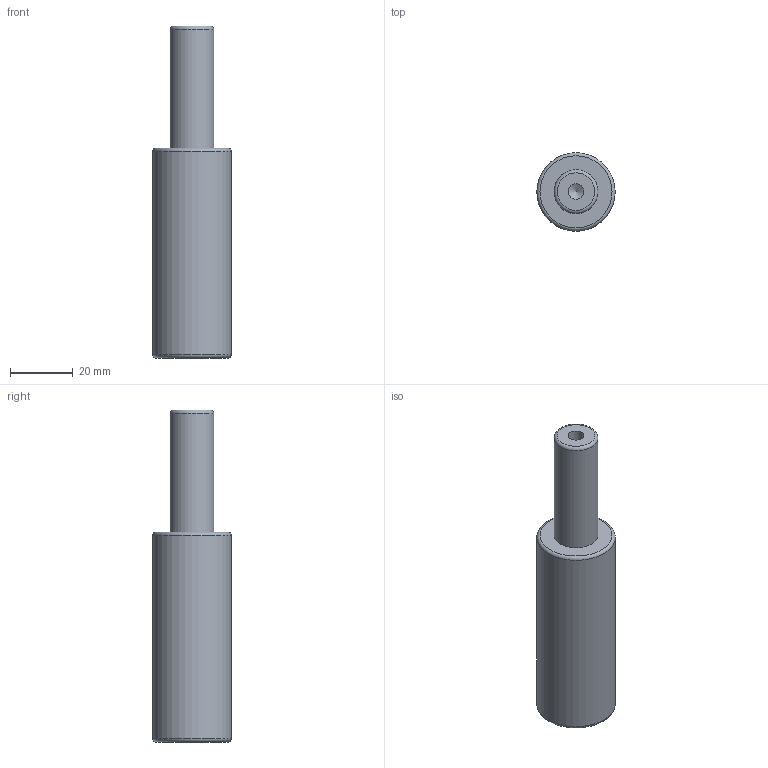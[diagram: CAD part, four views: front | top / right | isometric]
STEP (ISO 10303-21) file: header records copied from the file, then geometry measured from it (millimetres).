
FILE_DESCRIPTION(/* description */ (''),/* implementation_level */ '2;1');
FILE_NAME(/* name */ 'NV5-SMLX.25x38.stp',/* time_stamp */ '2018-08-31T16:08:38+02:00',/* author */ (''),/* organization */ (''),/* preprocessor_version */ 'ST-DEVELOPER v16',/* originating_system */ 'SIEMENS PLM Software NX 10.0',/* authorisation */ '');
FILE_SCHEMA (('AUTOMOTIVE_DESIGN { 1 0 10303 214 3 1 1 1 }'));
Length unit declared in the file: millimetre
Products named in the file (1): NV5-SMLX.25x38
Bounding box: 25 x 25 x 106 mm (x, y, z)
Volume: 38398.3 mm3; surface area: 8223.7 mm2
Topology: 1 solids, 1 shells, 12 faces, 24 edges, 15 vertices
Faces by surface type: cylinder 4, torus 3, plane 3, cone 2
Full cylindrical faces by diameter (mm): 5 x2, 14 x1, 25 x1
Entity records: 266 total; most frequent: DIRECTION 48, CARTESIAN_POINT 37, FACE_BOUND 24, AXIS2_PLACEMENT_3D 24, EDGE_LOOP 22, ORIENTED_EDGE 22, VERTEX_POINT 13, ADVANCED_FACE 12
